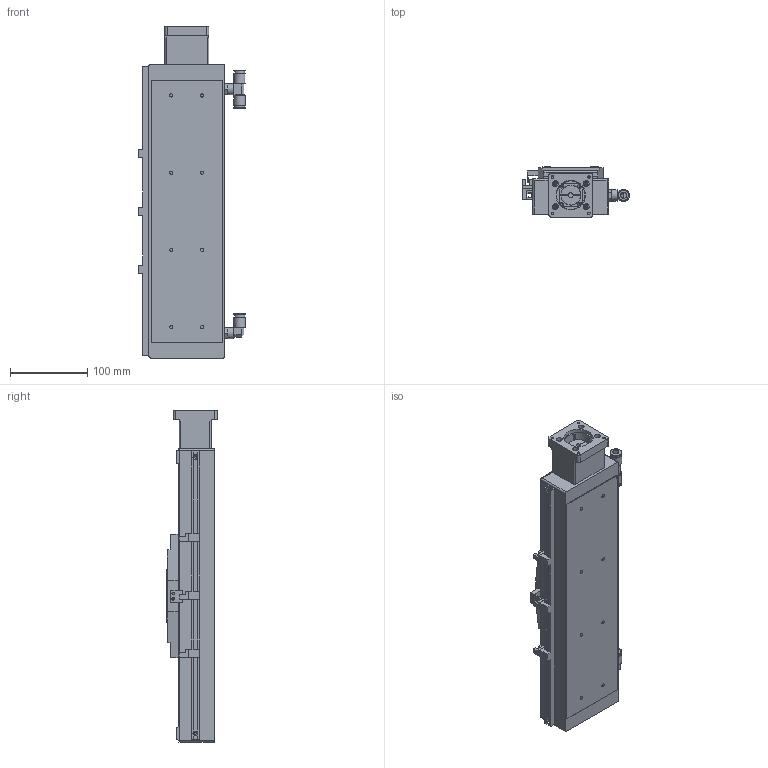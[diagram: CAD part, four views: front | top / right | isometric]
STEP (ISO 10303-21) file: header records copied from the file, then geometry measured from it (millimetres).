
FILE_DESCRIPTION((''),'2;1');
FILE_NAME('E:\libraries\UIA actuator library 2016\Clean room actuator\UIA098CR12DC\UIA098CR12 stp file 05May16\UIA098CR12DC-150-R16_ _-M23-P13-C10-S.stp','2016-05-09T14:29:48',('h029'),(''),'Autodesk Inventor 11','Autodesk Inventor 11','');
FILE_SCHEMA(('AUTOMOTIVE_DESIGN { 1 0 10303 214 1 1 1 1 }'));
Length unit declared in the file: millimetre
Products named in the file (12): UIA098CR12DC-150; body, UIA098CR12DC-150; carriage, UIA098CR12DC; Sensor Switch, UIA098CR12DC; SOH-25C; SOH-25C-2; SOH-25C-3; SOH-25C-1; Motor mount; Sensor Rail, UIA098CR12DC-150_MIR; vacuum port 1, UIA098CR12DC_MIR; vacuum port 2, UIA098CR12DC_MIR
Assembly tree (11 placements, depth 3):
  UIA098CR12DC-150
    body, UIA098CR12DC-150
    carriage, UIA098CR12DC
    Sensor Switch, UIA098CR12DC
    SOH-25C
      SOH-25C-2
      SOH-25C-3
      SOH-25C-1
    Motor mount
    Sensor Rail, UIA098CR12DC-150_MIR
    vacuum port 1, UIA098CR12DC_MIR
    vacuum port 2, UIA098CR12DC_MIR
Bounding box: 138.4 x 65.5 x 430 mm (x, y, z)
Volume: 1929072.7 mm3; surface area: 225742.9 mm2
Topology: 10 solids, 10 shells, 658 faces, 1719 edges, 1120 vertices
Faces by surface type: plane 295, bspline 276, cylinder 85, cone 2
Full cylindrical faces by diameter (mm): 3 x2, 5.6 x8, 8 x4, 9 x2, 10 x1, 13 x1, 15 x2, 18 x1, 25.5 x3, 37 x1, 38.1 x1
Entity records: 21393 total; most frequent: CARTESIAN_POINT 6252, ORIENTED_EDGE 3082, DIRECTION 2703, EDGE_CURVE 1541, VECTOR 1123, LINE 1123, VERTEX_POINT 1063, EDGE_LOOP 900
